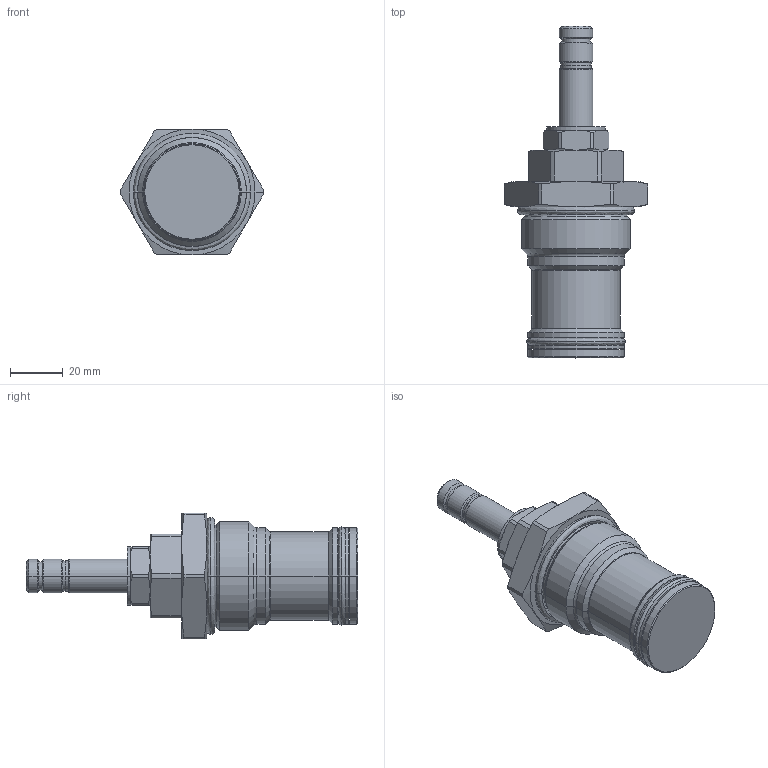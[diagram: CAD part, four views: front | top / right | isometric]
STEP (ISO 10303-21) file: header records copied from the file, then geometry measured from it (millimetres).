
FILE_DESCRIPTION((''),'2;1');
FILE_NAME('5073000_SW0001','2009-02-26T',('JCS'),(''),'PRO/ENGINEER BY PARAMETRIC TECHNOLOGY CORPORATION, 2008010','PRO/ENGINEER BY PARAMETRIC TECHNOLOGY CORPORATION, 2008010','');
FILE_SCHEMA(('CONFIG_CONTROL_DESIGN'));
Length unit declared in the file: inch
Products named in the file (1): 5073000_SW0001
Bounding box: 54.23 x 125.5 x 47.62 mm (x, y, z)
Volume: 97271.7 mm3; surface area: 19383.2 mm2
Topology: 4 solids, 4 shells, 185 faces, 418 edges, 248 vertices
Faces by surface type: cone 62, cylinder 60, plane 33, revolution 16, torus 14
Entity records: 5808 total; most frequent: CARTESIAN_POINT 1645, DIRECTION 892, ORIENTED_EDGE 836, EDGE_CURVE 418, AXIS2_PLACEMENT_3D 377, VERTEX_POINT 248, CIRCLE 208, EDGE_LOOP 198
